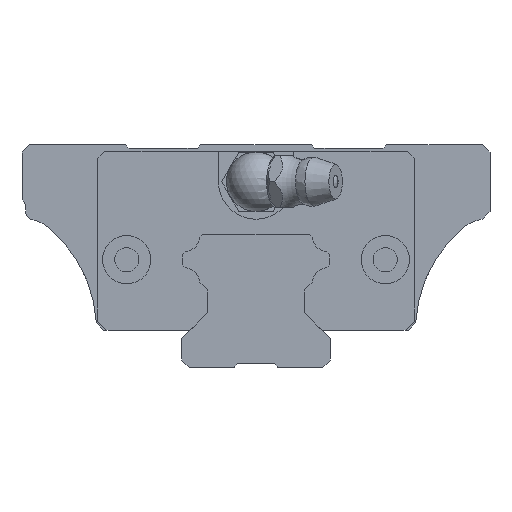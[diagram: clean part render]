
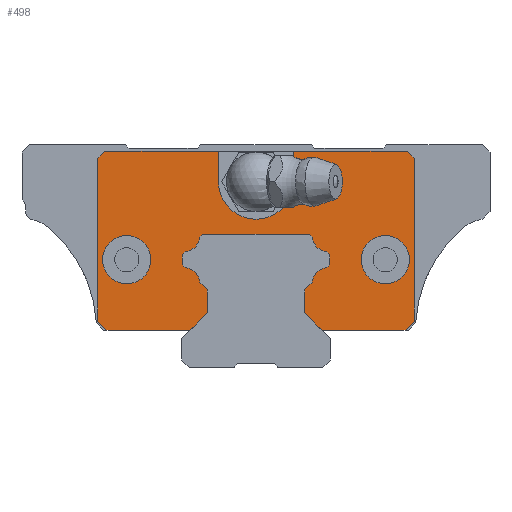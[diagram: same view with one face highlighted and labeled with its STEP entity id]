
A CAD part, front view. The second image highlights one B-rep face of the part: STEP entity #498.
In plain terms, the highlighted planar face has unit normal (0, -1, 0).
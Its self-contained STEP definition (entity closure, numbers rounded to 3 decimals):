
#202=FACE_BOUND('',#1031,.T.);
#203=FACE_BOUND('',#1032,.T.);
#317=CIRCLE('',#3782,2.2);
#319=CIRCLE('',#3788,2.2);
#321=CIRCLE('',#3794,2.2);
#323=CIRCLE('',#3800,2.2);
#339=CIRCLE('',#3860,3.25);
#340=CIRCLE('',#3861,3.25);
#341=CIRCLE('',#3862,5.05);
#498=ADVANCED_FACE('',(#202,#203,#831),#662,.F.);
#662=PLANE('',#3863);
#831=FACE_OUTER_BOUND('',#1033,.T.);
#1031=EDGE_LOOP('',(#1718));
#1032=EDGE_LOOP('',(#1719));
#1033=EDGE_LOOP('',(#1720,#1721,#1722,#1723,#1724,#1725,#1726,#1727,#1728,
#1729,#1730,#1731,#1732,#1733,#1734,#1735,#1736,#1737,#1738,#1739,#1740,
#1741,#1742,#1743,#1744,#1745,#1746,#1747,#1748,#1749,#1750,#1751));
#1718=ORIENTED_EDGE('',*,*,#2807,.F.);
#1719=ORIENTED_EDGE('',*,*,#2808,.F.);
#1720=ORIENTED_EDGE('',*,*,#2809,.F.);
#1721=ORIENTED_EDGE('',*,*,#2810,.T.);
#1722=ORIENTED_EDGE('',*,*,#2796,.T.);
#1723=ORIENTED_EDGE('',*,*,#2791,.F.);
#1724=ORIENTED_EDGE('',*,*,#2806,.T.);
#1725=ORIENTED_EDGE('',*,*,#2804,.T.);
#1726=ORIENTED_EDGE('',*,*,#2721,.T.);
#1727=ORIENTED_EDGE('',*,*,#2713,.T.);
#1728=ORIENTED_EDGE('',*,*,#2710,.F.);
#1729=ORIENTED_EDGE('',*,*,#2707,.F.);
#1730=ORIENTED_EDGE('',*,*,#2704,.T.);
#1731=ORIENTED_EDGE('',*,*,#2701,.F.);
#1732=ORIENTED_EDGE('',*,*,#2698,.F.);
#1733=ORIENTED_EDGE('',*,*,#2695,.T.);
#1734=ORIENTED_EDGE('',*,*,#2692,.T.);
#1735=ORIENTED_EDGE('',*,*,#2689,.T.);
#1736=ORIENTED_EDGE('',*,*,#2686,.T.);
#1737=ORIENTED_EDGE('',*,*,#2683,.F.);
#1738=ORIENTED_EDGE('',*,*,#2680,.T.);
#1739=ORIENTED_EDGE('',*,*,#2677,.F.);
#1740=ORIENTED_EDGE('',*,*,#2674,.T.);
#1741=ORIENTED_EDGE('',*,*,#2671,.T.);
#1742=ORIENTED_EDGE('',*,*,#2668,.T.);
#1743=ORIENTED_EDGE('',*,*,#2665,.T.);
#1744=ORIENTED_EDGE('',*,*,#2662,.T.);
#1745=ORIENTED_EDGE('',*,*,#2659,.F.);
#1746=ORIENTED_EDGE('',*,*,#2654,.T.);
#1747=ORIENTED_EDGE('',*,*,#2803,.T.);
#1748=ORIENTED_EDGE('',*,*,#2801,.F.);
#1749=ORIENTED_EDGE('',*,*,#2799,.F.);
#1750=ORIENTED_EDGE('',*,*,#2794,.T.);
#1751=ORIENTED_EDGE('',*,*,#2811,.F.);
#2267=VERTEX_POINT('',#5584);
#2268=VERTEX_POINT('',#5586);
#2272=VERTEX_POINT('',#5596);
#2274=VERTEX_POINT('',#5602);
#2276=VERTEX_POINT('',#5608);
#2278=VERTEX_POINT('',#5614);
#2280=VERTEX_POINT('',#5620);
#2282=VERTEX_POINT('',#5626);
#2284=VERTEX_POINT('',#5632);
#2286=VERTEX_POINT('',#5638);
#2288=VERTEX_POINT('',#5644);
#2290=VERTEX_POINT('',#5650);
#2292=VERTEX_POINT('',#5656);
#2294=VERTEX_POINT('',#5662);
#2296=VERTEX_POINT('',#5668);
#2298=VERTEX_POINT('',#5674);
#2300=VERTEX_POINT('',#5680);
#2302=VERTEX_POINT('',#5686);
#2304=VERTEX_POINT('',#5692);
#2306=VERTEX_POINT('',#5698);
#2308=VERTEX_POINT('',#5704);
#2315=VERTEX_POINT('',#5720);
#2356=VERTEX_POINT('',#5863);
#2357=VERTEX_POINT('',#5865);
#2358=VERTEX_POINT('',#5869);
#2360=VERTEX_POINT('',#5872);
#2361=VERTEX_POINT('',#5875);
#2363=VERTEX_POINT('',#5881);
#2364=VERTEX_POINT('',#5885);
#2365=VERTEX_POINT('',#5891);
#2366=VERTEX_POINT('',#5897);
#2367=VERTEX_POINT('',#5899);
#2368=VERTEX_POINT('',#5901);
#2369=VERTEX_POINT('',#5902);
#2654=EDGE_CURVE('',#2268,#2267,#3083,.T.);
#2659=EDGE_CURVE('',#2268,#2272,#3088,.T.);
#2662=EDGE_CURVE('',#2274,#2272,#3091,.T.);
#2665=EDGE_CURVE('',#2276,#2274,#3094,.T.);
#2668=EDGE_CURVE('',#2278,#2276,#317,.T.);
#2671=EDGE_CURVE('',#2280,#2278,#3098,.T.);
#2674=EDGE_CURVE('',#2282,#2280,#3101,.T.);
#2677=EDGE_CURVE('',#2282,#2284,#3104,.T.);
#2680=EDGE_CURVE('',#2286,#2284,#319,.T.);
#2683=EDGE_CURVE('',#2286,#2288,#3108,.T.);
#2686=EDGE_CURVE('',#2290,#2288,#3111,.T.);
#2689=EDGE_CURVE('',#2292,#2290,#3114,.T.);
#2692=EDGE_CURVE('',#2294,#2292,#321,.T.);
#2695=EDGE_CURVE('',#2296,#2294,#3118,.T.);
#2698=EDGE_CURVE('',#2296,#2298,#3121,.T.);
#2701=EDGE_CURVE('',#2298,#2300,#3124,.T.);
#2704=EDGE_CURVE('',#2302,#2300,#323,.T.);
#2707=EDGE_CURVE('',#2302,#2304,#3128,.T.);
#2710=EDGE_CURVE('',#2304,#2306,#3131,.T.);
#2713=EDGE_CURVE('',#2308,#2306,#3134,.T.);
#2721=EDGE_CURVE('',#2315,#2308,#3142,.T.);
#2791=EDGE_CURVE('',#2356,#2357,#3198,.T.);
#2794=EDGE_CURVE('',#2360,#2358,#3201,.T.);
#2796=EDGE_CURVE('',#2361,#2357,#3203,.T.);
#2799=EDGE_CURVE('',#2360,#2363,#3206,.T.);
#2801=EDGE_CURVE('',#2363,#2364,#3208,.T.);
#2803=EDGE_CURVE('',#2267,#2364,#3210,.T.);
#2804=EDGE_CURVE('',#2365,#2315,#3211,.T.);
#2806=EDGE_CURVE('',#2356,#2365,#3213,.T.);
#2807=EDGE_CURVE('',#2366,#2366,#339,.T.);
#2808=EDGE_CURVE('',#2367,#2367,#340,.T.);
#2809=EDGE_CURVE('',#2368,#2369,#341,.T.);
#2810=EDGE_CURVE('',#2368,#2361,#3214,.T.);
#2811=EDGE_CURVE('',#2369,#2358,#3215,.T.);
#3083=LINE('',#5585,#3426);
#3088=LINE('',#5595,#3431);
#3091=LINE('',#5601,#3434);
#3094=LINE('',#5607,#3437);
#3098=LINE('',#5619,#3441);
#3101=LINE('',#5625,#3444);
#3104=LINE('',#5631,#3447);
#3108=LINE('',#5643,#3451);
#3111=LINE('',#5649,#3454);
#3114=LINE('',#5655,#3457);
#3118=LINE('',#5667,#3461);
#3121=LINE('',#5673,#3464);
#3124=LINE('',#5679,#3467);
#3128=LINE('',#5691,#3471);
#3131=LINE('',#5697,#3474);
#3134=LINE('',#5703,#3477);
#3142=LINE('',#5719,#3485);
#3198=LINE('',#5864,#3541);
#3201=LINE('',#5871,#3544);
#3203=LINE('',#5874,#3546);
#3206=LINE('',#5880,#3549);
#3208=LINE('',#5884,#3551);
#3210=LINE('',#5888,#3553);
#3211=LINE('',#5890,#3554);
#3213=LINE('',#5894,#3556);
#3214=LINE('',#5903,#3557);
#3215=LINE('',#5904,#3558);
#3426=VECTOR('',#4302,1.);
#3431=VECTOR('',#4309,1.);
#3434=VECTOR('',#4314,1.);
#3437=VECTOR('',#4319,1.);
#3441=VECTOR('',#4331,1.);
#3444=VECTOR('',#4336,1.);
#3447=VECTOR('',#4341,1.);
#3451=VECTOR('',#4353,1.);
#3454=VECTOR('',#4358,1.);
#3457=VECTOR('',#4363,1.);
#3461=VECTOR('',#4375,1.);
#3464=VECTOR('',#4380,1.);
#3467=VECTOR('',#4385,1.);
#3471=VECTOR('',#4397,1.);
#3474=VECTOR('',#4402,1.);
#3477=VECTOR('',#4407,1.);
#3485=VECTOR('',#4417,1.);
#3541=VECTOR('',#4567,1.);
#3544=VECTOR('',#4572,1.);
#3546=VECTOR('',#4574,1.);
#3549=VECTOR('',#4579,1.);
#3551=VECTOR('',#4583,1.);
#3553=VECTOR('',#4587,1.);
#3554=VECTOR('',#4590,1.);
#3556=VECTOR('',#4594,1.);
#3557=VECTOR('',#4603,1.);
#3558=VECTOR('',#4604,1.);
#3782=AXIS2_PLACEMENT_3D('',#5613,#4324,#4325);
#3788=AXIS2_PLACEMENT_3D('',#5637,#4346,#4347);
#3794=AXIS2_PLACEMENT_3D('',#5661,#4368,#4369);
#3800=AXIS2_PLACEMENT_3D('',#5685,#4390,#4391);
#3860=AXIS2_PLACEMENT_3D('',#5896,#4597,#4598);
#3861=AXIS2_PLACEMENT_3D('',#5898,#4599,#4600);
#3862=AXIS2_PLACEMENT_3D('',#5900,#4601,#4602);
#3863=AXIS2_PLACEMENT_3D('',#5905,#4605,#4606);
#4302=DIRECTION('',(1.,0.,0.));
#4309=DIRECTION('',(-0.707,0.,0.707));
#4314=DIRECTION('',(0.,0.,-1.));
#4319=DIRECTION('',(-0.707,0.,-0.707));
#4324=DIRECTION('',(0.,-1.,0.));
#4325=DIRECTION('',(1.,0.,0.));
#4331=DIRECTION('',(-0.707,0.,-0.707));
#4336=DIRECTION('',(0.,0.,-1.));
#4341=DIRECTION('',(-0.707,0.,0.707));
#4346=DIRECTION('',(0.,-1.,0.));
#4347=DIRECTION('',(1.,0.,0.));
#4353=DIRECTION('',(-0.707,0.,0.707));
#4358=DIRECTION('',(1.,0.,0.));
#4363=DIRECTION('',(0.707,0.,0.707));
#4368=DIRECTION('',(0.,-1.,0.));
#4369=DIRECTION('',(1.,0.,0.));
#4375=DIRECTION('',(0.707,0.,0.707));
#4380=DIRECTION('',(0.,0.,-1.));
#4385=DIRECTION('',(0.707,0.,-0.707));
#4390=DIRECTION('',(0.,-1.,0.));
#4391=DIRECTION('',(1.,0.,0.));
#4397=DIRECTION('',(0.707,0.,-0.707));
#4402=DIRECTION('',(0.,0.,-1.));
#4407=DIRECTION('',(0.707,0.,0.707));
#4417=DIRECTION('',(1.,0.,0.));
#4567=DIRECTION('',(0.707,0.,0.707));
#4572=DIRECTION('',(-1.,0.,0.));
#4574=DIRECTION('',(-1.,0.,0.));
#4579=DIRECTION('',(0.707,0.,-0.707));
#4583=DIRECTION('',(0.,0.,-1.));
#4587=DIRECTION('',(0.707,0.,0.707));
#4590=DIRECTION('',(0.707,0.,-0.707));
#4594=DIRECTION('',(0.,0.,-1.));
#4597=DIRECTION('',(0.,-1.,0.));
#4598=DIRECTION('',(0.,0.,-1.));
#4599=DIRECTION('',(0.,-1.,0.));
#4600=DIRECTION('',(0.,0.,-1.));
#4601=DIRECTION('',(0.,-1.,0.));
#4602=DIRECTION('',(1.,0.,0.));
#4603=DIRECTION('',(0.,0.,1.));
#4604=DIRECTION('',(0.,0.,1.));
#4605=DIRECTION('',(0.,1.,0.));
#4606=DIRECTION('',(0.,0.,-1.));
#5584=CARTESIAN_POINT('',(20.059,-44.9,5.));
#5585=CARTESIAN_POINT('',(8.901,-44.9,5.));
#5586=CARTESIAN_POINT('',(8.901,-44.9,5.));
#5595=CARTESIAN_POINT('',(8.901,-44.9,5.));
#5596=CARTESIAN_POINT('',(6.53,-44.9,7.371));
#5601=CARTESIAN_POINT('',(6.53,-44.9,10.429));
#5602=CARTESIAN_POINT('',(6.53,-44.9,10.429));
#5607=CARTESIAN_POINT('',(7.564,-44.9,11.463));
#5608=CARTESIAN_POINT('',(7.564,-44.9,11.463));
#5613=CARTESIAN_POINT('',(9.753,-44.9,11.247));
#5614=CARTESIAN_POINT('',(9.537,-44.9,13.436));
#5619=CARTESIAN_POINT('',(9.93,-44.9,13.829));
#5620=CARTESIAN_POINT('',(9.93,-44.9,13.829));
#5625=CARTESIAN_POINT('',(9.93,-44.9,15.171));
#5626=CARTESIAN_POINT('',(9.93,-44.9,15.171));
#5631=CARTESIAN_POINT('',(9.93,-44.9,15.171));
#5632=CARTESIAN_POINT('',(9.537,-44.9,15.564));
#5637=CARTESIAN_POINT('',(9.753,-44.9,17.753));
#5638=CARTESIAN_POINT('',(7.564,-44.9,17.537));
#5643=CARTESIAN_POINT('',(7.564,-44.9,17.537));
#5644=CARTESIAN_POINT('',(7.171,-44.9,17.93));
#5649=CARTESIAN_POINT('',(-7.171,-44.9,17.93));
#5650=CARTESIAN_POINT('',(-7.171,-44.9,17.93));
#5655=CARTESIAN_POINT('',(-7.564,-44.9,17.537));
#5656=CARTESIAN_POINT('',(-7.564,-44.9,17.537));
#5661=CARTESIAN_POINT('',(-9.753,-44.9,17.753));
#5662=CARTESIAN_POINT('',(-9.537,-44.9,15.564));
#5667=CARTESIAN_POINT('',(-9.93,-44.9,15.171));
#5668=CARTESIAN_POINT('',(-9.93,-44.9,15.171));
#5673=CARTESIAN_POINT('',(-9.93,-44.9,15.171));
#5674=CARTESIAN_POINT('',(-9.93,-44.9,13.829));
#5679=CARTESIAN_POINT('',(-9.93,-44.9,13.829));
#5680=CARTESIAN_POINT('',(-9.537,-44.9,13.436));
#5685=CARTESIAN_POINT('',(-9.753,-44.9,11.247));
#5686=CARTESIAN_POINT('',(-7.564,-44.9,11.463));
#5691=CARTESIAN_POINT('',(-7.564,-44.9,11.463));
#5692=CARTESIAN_POINT('',(-6.53,-44.9,10.429));
#5697=CARTESIAN_POINT('',(-6.53,-44.9,10.429));
#5698=CARTESIAN_POINT('',(-6.53,-44.9,7.371));
#5703=CARTESIAN_POINT('',(-8.901,-44.9,5.));
#5704=CARTESIAN_POINT('',(-8.901,-44.9,5.));
#5719=CARTESIAN_POINT('',(-20.059,-44.9,5.));
#5720=CARTESIAN_POINT('',(-20.059,-44.9,5.));
#5863=CARTESIAN_POINT('',(-21.3,-44.9,28.159));
#5864=CARTESIAN_POINT('',(-21.3,-44.9,28.159));
#5865=CARTESIAN_POINT('',(-20.359,-44.9,29.1));
#5869=CARTESIAN_POINT('',(5.05,-44.9,29.1));
#5871=CARTESIAN_POINT('',(20.359,-44.9,29.1));
#5872=CARTESIAN_POINT('',(20.359,-44.9,29.1));
#5874=CARTESIAN_POINT('',(20.359,-44.9,29.1));
#5875=CARTESIAN_POINT('',(-5.05,-44.9,29.1));
#5880=CARTESIAN_POINT('',(20.359,-44.9,29.1));
#5881=CARTESIAN_POINT('',(21.3,-44.9,28.159));
#5884=CARTESIAN_POINT('',(21.3,-44.9,28.159));
#5885=CARTESIAN_POINT('',(21.3,-44.9,6.241));
#5888=CARTESIAN_POINT('',(20.059,-44.9,5.));
#5890=CARTESIAN_POINT('',(-21.3,-44.9,6.241));
#5891=CARTESIAN_POINT('',(-21.3,-44.9,6.241));
#5894=CARTESIAN_POINT('',(-21.3,-44.9,28.159));
#5896=CARTESIAN_POINT('',(17.4,-44.9,14.5));
#5897=CARTESIAN_POINT('',(17.4,-44.9,11.25));
#5898=CARTESIAN_POINT('',(-17.4,-44.9,14.5));
#5899=CARTESIAN_POINT('',(-17.4,-44.9,11.25));
#5900=CARTESIAN_POINT('',(0.,-44.9,25.));
#5901=CARTESIAN_POINT('',(-5.05,-44.9,25.));
#5902=CARTESIAN_POINT('',(5.05,-44.9,25.));
#5903=CARTESIAN_POINT('',(-5.05,-44.9,25.));
#5904=CARTESIAN_POINT('',(5.05,-44.9,25.));
#5905=CARTESIAN_POINT('',(9.753,-44.9,11.247));
